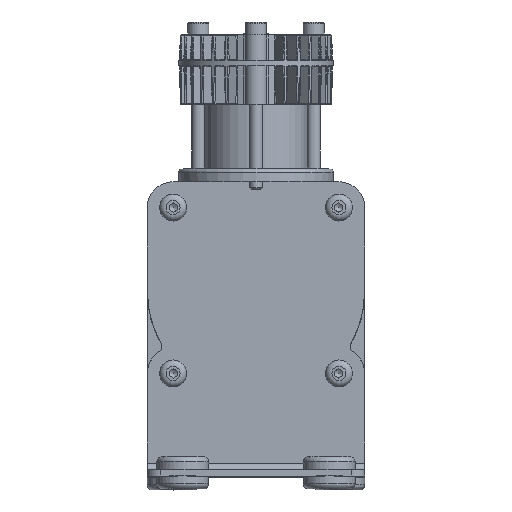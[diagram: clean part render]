
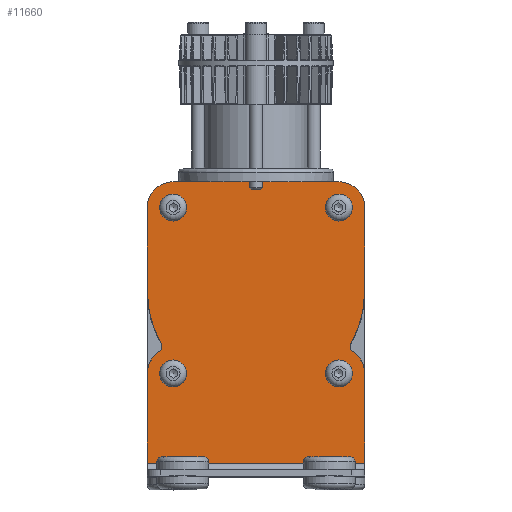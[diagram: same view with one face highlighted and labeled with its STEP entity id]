
A CAD part, top view. The second image highlights one B-rep face of the part: STEP entity #11660.
In plain terms, the highlighted planar face has unit normal (0, 0, 1).
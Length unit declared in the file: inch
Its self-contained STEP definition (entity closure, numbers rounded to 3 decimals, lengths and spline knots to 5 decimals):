
#1360=FACE_BOUND('',#2385,.T.);
#1361=FACE_BOUND('',#2386,.T.);
#1362=FACE_BOUND('',#2387,.T.);
#1363=FACE_BOUND('',#2388,.T.);
#1417=PLANE('',#12584);
#1622=FACE_OUTER_BOUND('',#2384,.T.);
#2384=EDGE_LOOP('',(#7792,#7793,#7794,#7795,#7796,#7797,#7798,#7799,#7800,
#7801,#7802,#7803,#7804,#7805));
#2385=EDGE_LOOP('',(#7806));
#2386=EDGE_LOOP('',(#7807));
#2387=EDGE_LOOP('',(#7808));
#2388=EDGE_LOOP('',(#7809));
#3190=LINE('',#16950,#3703);
#3196=LINE('',#16967,#3709);
#3199=LINE('',#16975,#3712);
#3201=LINE('',#16982,#3714);
#3207=LINE('',#16999,#3720);
#3208=LINE('',#17001,#3721);
#3703=VECTOR('',#13892,39.37008);
#3709=VECTOR('',#13912,39.37008);
#3712=VECTOR('',#13921,39.37008);
#3714=VECTOR('',#13929,39.37008);
#3720=VECTOR('',#13947,39.37008);
#3721=VECTOR('',#13950,39.37008);
#4199=CIRCLE('',#12533,0.075);
#4201=CIRCLE('',#12536,0.075);
#4203=CIRCLE('',#12539,0.075);
#4205=CIRCLE('',#12542,0.075);
#4206=CIRCLE('',#12544,0.0625);
#4222=CIRCLE('',#12566,0.25);
#4223=CIRCLE('',#12568,0.0625);
#4224=CIRCLE('',#12570,1.055);
#4225=CIRCLE('',#12573,0.25);
#4226=CIRCLE('',#12576,0.25);
#4227=CIRCLE('',#12579,1.055);
#4228=CIRCLE('',#12581,0.25);
#4673=VERTEX_POINT('',#16866);
#4675=VERTEX_POINT('',#16872);
#4677=VERTEX_POINT('',#16878);
#4679=VERTEX_POINT('',#16884);
#4680=VERTEX_POINT('',#16888);
#4681=VERTEX_POINT('',#16889);
#4705=VERTEX_POINT('',#16947);
#4706=VERTEX_POINT('',#16949);
#4707=VERTEX_POINT('',#16953);
#4708=VERTEX_POINT('',#16957);
#4709=VERTEX_POINT('',#16961);
#4710=VERTEX_POINT('',#16965);
#4711=VERTEX_POINT('',#16969);
#4712=VERTEX_POINT('',#16973);
#4713=VERTEX_POINT('',#16977);
#4714=VERTEX_POINT('',#16981);
#4715=VERTEX_POINT('',#16987);
#4716=VERTEX_POINT('',#16991);
#5822=EDGE_CURVE('',#4673,#4673,#4199,.T.);
#5825=EDGE_CURVE('',#4675,#4675,#4201,.T.);
#5828=EDGE_CURVE('',#4677,#4677,#4203,.T.);
#5831=EDGE_CURVE('',#4679,#4679,#4205,.T.);
#5832=EDGE_CURVE('',#4680,#4681,#4206,.T.);
#5862=EDGE_CURVE('',#4705,#4706,#3190,.T.);
#5864=EDGE_CURVE('',#4706,#4707,#4222,.T.);
#5866=EDGE_CURVE('',#4708,#4707,#4223,.T.);
#5868=EDGE_CURVE('',#4708,#4709,#4224,.T.);
#5871=EDGE_CURVE('',#4709,#4710,#3196,.T.);
#5872=EDGE_CURVE('',#4710,#4711,#4225,.T.);
#5875=EDGE_CURVE('',#4711,#4712,#3199,.T.);
#5876=EDGE_CURVE('',#4712,#4713,#4226,.T.);
#5878=EDGE_CURVE('',#4713,#4714,#3201,.T.);
#5880=EDGE_CURVE('',#4714,#4681,#4227,.T.);
#5881=EDGE_CURVE('',#4680,#4715,#4228,.T.);
#5887=EDGE_CURVE('',#4715,#4716,#3207,.T.);
#5888=EDGE_CURVE('',#4705,#4716,#3208,.T.);
#7792=ORIENTED_EDGE('',*,*,#5864,.F.);
#7793=ORIENTED_EDGE('',*,*,#5862,.F.);
#7794=ORIENTED_EDGE('',*,*,#5888,.T.);
#7795=ORIENTED_EDGE('',*,*,#5887,.F.);
#7796=ORIENTED_EDGE('',*,*,#5881,.F.);
#7797=ORIENTED_EDGE('',*,*,#5832,.T.);
#7798=ORIENTED_EDGE('',*,*,#5880,.F.);
#7799=ORIENTED_EDGE('',*,*,#5878,.F.);
#7800=ORIENTED_EDGE('',*,*,#5876,.F.);
#7801=ORIENTED_EDGE('',*,*,#5875,.F.);
#7802=ORIENTED_EDGE('',*,*,#5872,.F.);
#7803=ORIENTED_EDGE('',*,*,#5871,.F.);
#7804=ORIENTED_EDGE('',*,*,#5868,.F.);
#7805=ORIENTED_EDGE('',*,*,#5866,.T.);
#7806=ORIENTED_EDGE('',*,*,#5831,.T.);
#7807=ORIENTED_EDGE('',*,*,#5828,.T.);
#7808=ORIENTED_EDGE('',*,*,#5825,.T.);
#7809=ORIENTED_EDGE('',*,*,#5822,.T.);
#11660=ADVANCED_FACE('',(#1622,#1360,#1361,#1362,#1363),#1417,.T.);
#12533=AXIS2_PLACEMENT_3D('',#16868,#13811,#13812);
#12536=AXIS2_PLACEMENT_3D('',#16874,#13818,#13819);
#12539=AXIS2_PLACEMENT_3D('',#16880,#13825,#13826);
#12542=AXIS2_PLACEMENT_3D('',#16886,#13832,#13833);
#12544=AXIS2_PLACEMENT_3D('',#16890,#13836,#13837);
#12566=AXIS2_PLACEMENT_3D('',#16954,#13896,#13897);
#12568=AXIS2_PLACEMENT_3D('',#16958,#13901,#13902);
#12570=AXIS2_PLACEMENT_3D('',#16962,#13906,#13907);
#12573=AXIS2_PLACEMENT_3D('',#16970,#13915,#13916);
#12576=AXIS2_PLACEMENT_3D('',#16978,#13924,#13925);
#12579=AXIS2_PLACEMENT_3D('',#16985,#13933,#13934);
#12581=AXIS2_PLACEMENT_3D('',#16988,#13937,#13938);
#12584=AXIS2_PLACEMENT_3D('',#17000,#13948,#13949);
#13811=DIRECTION('center_axis',(0.,0.,-1.));
#13812=DIRECTION('ref_axis',(1.,0.,0.));
#13818=DIRECTION('center_axis',(0.,0.,-1.));
#13819=DIRECTION('ref_axis',(1.,0.,0.));
#13825=DIRECTION('center_axis',(0.,0.,-1.));
#13826=DIRECTION('ref_axis',(1.,0.,0.));
#13832=DIRECTION('center_axis',(0.,0.,-1.));
#13833=DIRECTION('ref_axis',(1.,0.,0.));
#13836=DIRECTION('center_axis',(0.,0.,-1.));
#13837=DIRECTION('ref_axis',(-1.,0.,0.));
#13892=DIRECTION('',(0.,1.,0.));
#13896=DIRECTION('center_axis',(0.,0.,-1.));
#13897=DIRECTION('ref_axis',(-1.,0.,0.));
#13901=DIRECTION('center_axis',(0.,0.,-1.));
#13902=DIRECTION('ref_axis',(-1.,0.,0.));
#13906=DIRECTION('center_axis',(0.,0.,-1.));
#13907=DIRECTION('ref_axis',(-1.,0.,0.));
#13912=DIRECTION('',(0.,1.,0.));
#13915=DIRECTION('center_axis',(0.,0.,-1.));
#13916=DIRECTION('ref_axis',(-1.,0.,0.));
#13921=DIRECTION('',(1.,0.,0.));
#13924=DIRECTION('center_axis',(0.,0.,-1.));
#13925=DIRECTION('ref_axis',(-1.,0.,0.));
#13929=DIRECTION('',(0.,-1.,0.));
#13933=DIRECTION('center_axis',(0.,0.,-1.));
#13934=DIRECTION('ref_axis',(-1.,0.,0.));
#13937=DIRECTION('center_axis',(0.,0.,-1.));
#13938=DIRECTION('ref_axis',(-1.,0.,0.));
#13947=DIRECTION('',(0.,-1.,0.));
#13948=DIRECTION('center_axis',(0.,0.,1.));
#13949=DIRECTION('ref_axis',(1.,0.,0.));
#13950=DIRECTION('',(1.,0.,0.));
#16866=CARTESIAN_POINT('',(-0.88,-0.61,0.0625));
#16868=CARTESIAN_POINT('Origin',(-0.805,-0.61,
0.0625));
#16872=CARTESIAN_POINT('',(0.73,-0.61,0.0625));
#16874=CARTESIAN_POINT('Origin',(0.805,-0.61,0.0625));
#16878=CARTESIAN_POINT('',(0.73,1.,0.0625));
#16880=CARTESIAN_POINT('Origin',(0.805,1.,0.0625));
#16884=CARTESIAN_POINT('',(-0.88,1.,0.0625));
#16886=CARTESIAN_POINT('Origin',(-0.805,1.,0.0625));
#16888=CARTESIAN_POINT('',(0.94207,-0.40093,0.0625));
#16889=CARTESIAN_POINT('',(0.92174,-0.31825,0.0625));
#16890=CARTESIAN_POINT('Origin',(0.97634,-0.34866,0.0625));
#16947=CARTESIAN_POINT('',(-1.055,-1.48,0.0625));
#16949=CARTESIAN_POINT('',(-1.055,-0.61,0.0625));
#16950=CARTESIAN_POINT('',(-1.055,-1.25,0.0625));
#16953=CARTESIAN_POINT('',(-0.94207,-0.40093,0.0625));
#16954=CARTESIAN_POINT('Origin',(-0.805,-0.61,
0.0625));
#16957=CARTESIAN_POINT('',(-0.92174,-0.31825,0.0625));
#16958=CARTESIAN_POINT('Origin',(-0.97634,-0.34866,
0.0625));
#16961=CARTESIAN_POINT('',(-1.055,0.195,0.0625));
#16962=CARTESIAN_POINT('Origin',(0.,0.195,0.0625));
#16965=CARTESIAN_POINT('',(-1.055,1.,0.0625));
#16967=CARTESIAN_POINT('',(-1.055,-1.25,0.0625));
#16969=CARTESIAN_POINT('',(-0.805,1.25,0.0625));
#16970=CARTESIAN_POINT('Origin',(-0.805,1.,0.0625));
#16973=CARTESIAN_POINT('',(0.805,1.25,0.0625));
#16975=CARTESIAN_POINT('',(-1.055,1.25,0.0625));
#16977=CARTESIAN_POINT('',(1.055,1.,0.0625));
#16978=CARTESIAN_POINT('Origin',(0.805,1.,0.0625));
#16981=CARTESIAN_POINT('',(1.055,0.195,0.0625));
#16982=CARTESIAN_POINT('',(1.055,1.25,0.0625));
#16985=CARTESIAN_POINT('Origin',(0.,0.195,0.0625));
#16987=CARTESIAN_POINT('',(1.055,-0.61,0.0625));
#16988=CARTESIAN_POINT('Origin',(0.805,-0.61,0.0625));
#16991=CARTESIAN_POINT('',(1.055,-1.48,0.0625));
#16999=CARTESIAN_POINT('',(1.055,1.25,0.0625));
#17000=CARTESIAN_POINT('Origin',(0.,0.,0.0625));
#17001=CARTESIAN_POINT('',(0.,-1.48,0.0625));
